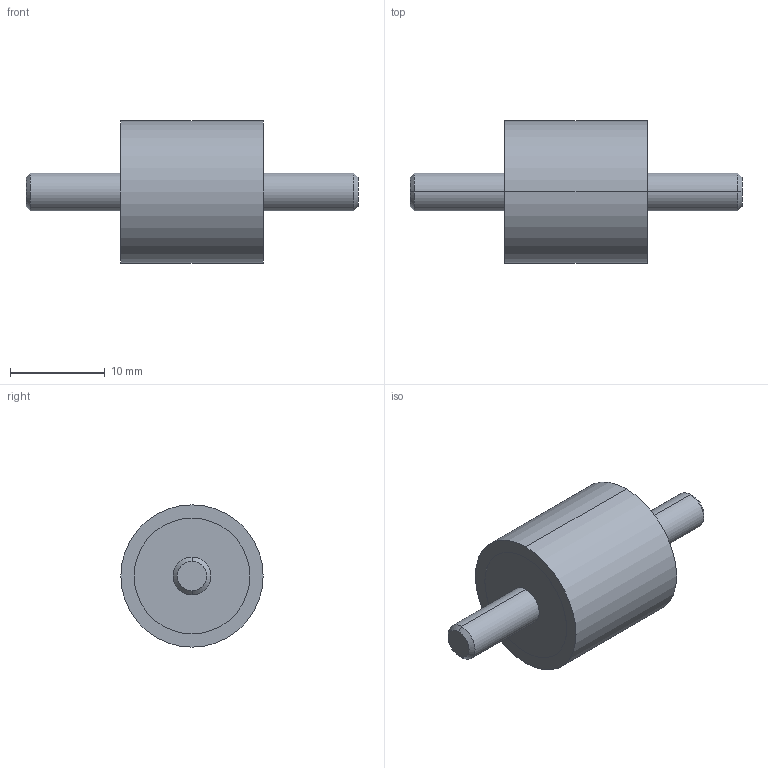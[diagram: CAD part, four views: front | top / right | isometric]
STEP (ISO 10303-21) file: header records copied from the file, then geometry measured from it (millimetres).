
FILE_DESCRIPTION (( 'STEP AP214' ), '1' );
FILE_NAME ('351-15-15-M4-SS-70.step', '2025-07-23T09:44:37', ( '' ), ( '' ), 'SwSTEP 2.0', 'SolidWorks 2022', '' );
FILE_SCHEMA (( 'AUTOMOTIVE_DESIGN' ));
Length unit declared in the file: millimetre
Products named in the file (1): 351-15-15-M4-SS-70
Bounding box: 35 x 15 x 15 mm (x, y, z)
Volume: 2897.6 mm3; surface area: 1305.5 mm2
Topology: 1 solids, 1 shells, 20 faces, 38 edges, 24 vertices
Faces by surface type: cylinder 10, plane 6, cone 4
Entity records: 636 total; most frequent: DIRECTION 104, CARTESIAN_POINT 83, ORIENTED_EDGE 76, AXIS2_PLACEMENT_3D 45, EDGE_CURVE 38, CIRCLE 24, VERTEX_POINT 24, EDGE_LOOP 24
